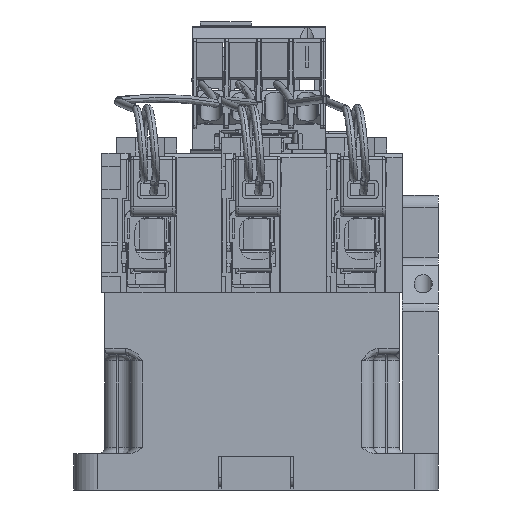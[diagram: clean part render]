
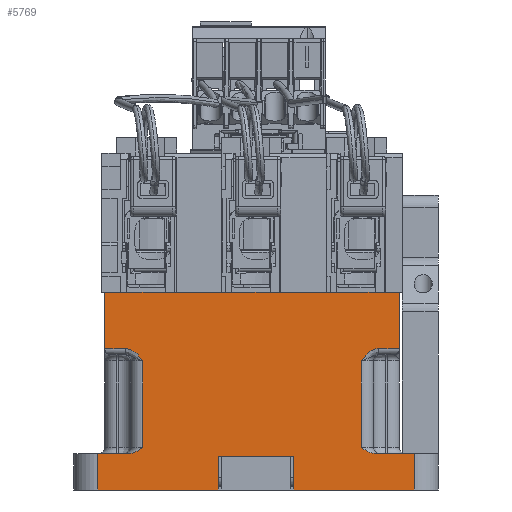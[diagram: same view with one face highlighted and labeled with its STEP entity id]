
A CAD part, front view. The second image highlights one B-rep face of the part: STEP entity #5769.
In plain terms, the highlighted planar face has unit normal (0, -1, 0).
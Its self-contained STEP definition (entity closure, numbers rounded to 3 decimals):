
#539=B_SPLINE_CURVE_WITH_KNOTS('',3,(#148453,#148454,#148455,#148456,#148457,
#148458),.UNSPECIFIED.,.F.,.F.,(4,2,4),(0.,0.5,1.),.UNSPECIFIED.);
#540=B_SPLINE_CURVE_WITH_KNOTS('',3,(#148462,#148463,#148464,#148465,#148466,
#148467),.UNSPECIFIED.,.F.,.F.,(4,2,4),(0.,0.5,1.),.UNSPECIFIED.);
#541=B_SPLINE_CURVE_WITH_KNOTS('',3,(#148484,#148485,#148486,#148487,#148488,
#148489),.UNSPECIFIED.,.F.,.F.,(4,2,4),(0.,0.5,1.),.UNSPECIFIED.);
#542=B_SPLINE_CURVE_WITH_KNOTS('',3,(#148493,#148494,#148495,#148496,#148497,
#148498),.UNSPECIFIED.,.F.,.F.,(4,2,4),(0.,0.5,1.),.UNSPECIFIED.);
#5769=ADVANCED_FACE('',(#15220),#11215,.F.);
#11215=PLANE('',#111714);
#15220=FACE_OUTER_BOUND('',#20529,.T.);
#20529=EDGE_LOOP('',(#26310,#26311,#26312,#26313,#26314,#26315,#26316,#26317,
#26318,#26319,#26320,#26321,#26322,#26323,#26324,#26325,#26326,#26327,#26328,
#26329,#26330,#26331,#26332,#26333,#26334,#26335));
#26310=ORIENTED_EDGE('',*,*,#69950,.T.);
#26311=ORIENTED_EDGE('',*,*,#69951,.T.);
#26312=ORIENTED_EDGE('',*,*,#69952,.T.);
#26313=ORIENTED_EDGE('',*,*,#69953,.T.);
#26314=ORIENTED_EDGE('',*,*,#69954,.F.);
#26315=ORIENTED_EDGE('',*,*,#69955,.T.);
#26316=ORIENTED_EDGE('',*,*,#69956,.T.);
#26317=ORIENTED_EDGE('',*,*,#69957,.F.);
#26318=ORIENTED_EDGE('',*,*,#69958,.F.);
#26319=ORIENTED_EDGE('',*,*,#69959,.T.);
#26320=ORIENTED_EDGE('',*,*,#69960,.T.);
#26321=ORIENTED_EDGE('',*,*,#69961,.T.);
#26322=ORIENTED_EDGE('',*,*,#69910,.F.);
#26323=ORIENTED_EDGE('',*,*,#69962,.T.);
#26324=ORIENTED_EDGE('',*,*,#69963,.T.);
#26325=ORIENTED_EDGE('',*,*,#69964,.T.);
#26326=ORIENTED_EDGE('',*,*,#69965,.T.);
#26327=ORIENTED_EDGE('',*,*,#69966,.T.);
#26328=ORIENTED_EDGE('',*,*,#69967,.T.);
#26329=ORIENTED_EDGE('',*,*,#69869,.T.);
#26330=ORIENTED_EDGE('',*,*,#69968,.T.);
#26331=ORIENTED_EDGE('',*,*,#69882,.T.);
#26332=ORIENTED_EDGE('',*,*,#69969,.T.);
#26333=ORIENTED_EDGE('',*,*,#69873,.T.);
#26334=ORIENTED_EDGE('',*,*,#69970,.T.);
#26335=ORIENTED_EDGE('',*,*,#69929,.F.);
#59128=VERTEX_POINT('',#148242);
#59130=VERTEX_POINT('',#148246);
#59132=VERTEX_POINT('',#148251);
#59134=VERTEX_POINT('',#148255);
#59143=VERTEX_POINT('',#148277);
#59144=VERTEX_POINT('',#148278);
#59171=VERTEX_POINT('',#148334);
#59172=VERTEX_POINT('',#148336);
#59187=VERTEX_POINT('',#148391);
#59188=VERTEX_POINT('',#148393);
#59204=VERTEX_POINT('',#148452);
#59205=VERTEX_POINT('',#148459);
#59206=VERTEX_POINT('',#148461);
#59207=VERTEX_POINT('',#148468);
#59208=VERTEX_POINT('',#148470);
#59209=VERTEX_POINT('',#148472);
#59210=VERTEX_POINT('',#148474);
#59211=VERTEX_POINT('',#148476);
#59212=VERTEX_POINT('',#148478);
#59213=VERTEX_POINT('',#148480);
#59214=VERTEX_POINT('',#148482);
#59215=VERTEX_POINT('',#148490);
#59216=VERTEX_POINT('',#148492);
#59217=VERTEX_POINT('',#148499);
#59218=VERTEX_POINT('',#148501);
#59219=VERTEX_POINT('',#148503);
#69869=EDGE_CURVE('',#59128,#59130,#86341,.T.);
#69873=EDGE_CURVE('',#59132,#59134,#86345,.T.);
#69882=EDGE_CURVE('',#59143,#59144,#86354,.T.);
#69910=EDGE_CURVE('',#59171,#59172,#86371,.T.);
#69929=EDGE_CURVE('',#59187,#59188,#86380,.T.);
#69950=EDGE_CURVE('',#59187,#59204,#86397,.T.);
#69951=EDGE_CURVE('',#59204,#59205,#539,.T.);
#69952=EDGE_CURVE('',#59205,#59206,#86398,.T.);
#69953=EDGE_CURVE('',#59206,#59207,#540,.T.);
#69954=EDGE_CURVE('',#59208,#59207,#86399,.T.);
#69955=EDGE_CURVE('',#59208,#59209,#86400,.T.);
#69956=EDGE_CURVE('',#59209,#59210,#86401,.T.);
#69957=EDGE_CURVE('',#59211,#59210,#86402,.T.);
#69958=EDGE_CURVE('',#59212,#59211,#86403,.T.);
#69959=EDGE_CURVE('',#59212,#59213,#86404,.T.);
#69960=EDGE_CURVE('',#59213,#59214,#86405,.T.);
#69961=EDGE_CURVE('',#59214,#59172,#86406,.T.);
#69962=EDGE_CURVE('',#59171,#59215,#541,.T.);
#69963=EDGE_CURVE('',#59215,#59216,#86407,.T.);
#69964=EDGE_CURVE('',#59216,#59217,#542,.T.);
#69965=EDGE_CURVE('',#59217,#59218,#86408,.T.);
#69966=EDGE_CURVE('',#59218,#59219,#86409,.T.);
#69967=EDGE_CURVE('',#59219,#59128,#86410,.T.);
#69968=EDGE_CURVE('',#59130,#59143,#86411,.T.);
#69969=EDGE_CURVE('',#59144,#59132,#86412,.T.);
#69970=EDGE_CURVE('',#59134,#59188,#86413,.T.);
#86341=LINE('',#148247,#99016);
#86345=LINE('',#148256,#99020);
#86354=LINE('',#148276,#99029);
#86371=LINE('',#148335,#99046);
#86380=LINE('',#148392,#99055);
#86397=LINE('',#148451,#99072);
#86398=LINE('',#148460,#99073);
#86399=LINE('',#148469,#99074);
#86400=LINE('',#148471,#99075);
#86401=LINE('',#148473,#99076);
#86402=LINE('',#148475,#99077);
#86403=LINE('',#148477,#99078);
#86404=LINE('',#148479,#99079);
#86405=LINE('',#148481,#99080);
#86406=LINE('',#148483,#99081);
#86407=LINE('',#148491,#99082);
#86408=LINE('',#148500,#99083);
#86409=LINE('',#148502,#99084);
#86410=LINE('',#148504,#99085);
#86411=LINE('',#148505,#99086);
#86412=LINE('',#148506,#99087);
#86413=LINE('',#148507,#99088);
#99016=VECTOR('',#119667,1.);
#99020=VECTOR('',#119673,1.);
#99029=VECTOR('',#119688,1.);
#99046=VECTOR('',#119731,1.);
#99055=VECTOR('',#119758,1.);
#99072=VECTOR('',#119779,1.);
#99073=VECTOR('',#119780,1.);
#99074=VECTOR('',#119781,1.);
#99075=VECTOR('',#119782,1.);
#99076=VECTOR('',#119783,1.);
#99077=VECTOR('',#119784,1.);
#99078=VECTOR('',#119785,1.);
#99079=VECTOR('',#119786,1.);
#99080=VECTOR('',#119787,1.);
#99081=VECTOR('',#119788,1.);
#99082=VECTOR('',#119789,1.);
#99083=VECTOR('',#119790,1.);
#99084=VECTOR('',#119791,1.);
#99085=VECTOR('',#119792,1.);
#99086=VECTOR('',#119793,1.);
#99087=VECTOR('',#119794,1.);
#99088=VECTOR('',#119795,1.);
#111714=AXIS2_PLACEMENT_3D('',#148508,#119796,#119797);
#119667=DIRECTION('',(-1.,0.,0.));
#119673=DIRECTION('',(-1.,0.,0.));
#119688=DIRECTION('',(-1.,0.,0.));
#119731=DIRECTION('',(1.,0.,0.));
#119758=DIRECTION('',(0.,0.,1.));
#119779=DIRECTION('',(1.,0.,0.));
#119780=DIRECTION('',(0.,0.,-1.));
#119781=DIRECTION('',(1.,0.,0.));
#119782=DIRECTION('',(0.,0.,-1.));
#119783=DIRECTION('',(1.,0.,0.));
#119784=DIRECTION('',(0.,0.,-1.));
#119785=DIRECTION('',(-1.,0.,0.));
#119786=DIRECTION('',(0.,0.,-1.));
#119787=DIRECTION('',(1.,0.,0.));
#119788=DIRECTION('',(0.,0.,1.));
#119789=DIRECTION('',(0.,0.,1.));
#119790=DIRECTION('',(1.,0.,0.));
#119791=DIRECTION('',(0.,0.,1.));
#119792=DIRECTION('',(-1.,0.,0.));
#119793=DIRECTION('',(-1.,0.,0.));
#119794=DIRECTION('',(-1.,0.,0.));
#119795=DIRECTION('',(-1.,0.,0.));
#119796=DIRECTION('',(0.,1.,0.));
#119797=DIRECTION('',(0.,0.,1.));
#148242=CARTESIAN_POINT('',(99.201,0.,65.));
#148246=CARTESIAN_POINT('',(86.451,0.,65.));
#148247=CARTESIAN_POINT('',(0.,0.,65.));
#148251=CARTESIAN_POINT('',(30.201,0.,65.));
#148255=CARTESIAN_POINT('',(17.451,0.,65.));
#148256=CARTESIAN_POINT('',(0.,0.,65.));
#148276=CARTESIAN_POINT('',(0.,0.,65.));
#148277=CARTESIAN_POINT('',(64.701,0.,65.));
#148278=CARTESIAN_POINT('',(51.951,0.,65.));
#148334=CARTESIAN_POINT('',(99.174,0.,12.));
#148335=CARTESIAN_POINT('',(0.,0.,12.));
#148336=CARTESIAN_POINT('',(112.,0.,12.));
#148391=CARTESIAN_POINT('',(10.201,0.,46.5));
#148392=CARTESIAN_POINT('',(10.201,0.,12.));
#148393=CARTESIAN_POINT('',(10.201,0.,65.));
#148451=CARTESIAN_POINT('',(18.229,0.,46.5));
#148452=CARTESIAN_POINT('',(17.045,0.,46.5));
#148453=CARTESIAN_POINT('',(17.045,0.,46.5));
#148454=CARTESIAN_POINT('',(18.262,0.,46.5));
#148455=CARTESIAN_POINT('',(19.428,0.,45.991));
#148456=CARTESIAN_POINT('',(21.294,0.,44.473));
#148457=CARTESIAN_POINT('',(22.008,0.,43.481));
#148458=CARTESIAN_POINT('',(22.701,0.,42.5));
#148459=CARTESIAN_POINT('',(22.701,0.,42.5));
#148460=CARTESIAN_POINT('',(22.701,0.,12.));
#148461=CARTESIAN_POINT('',(22.701,0.,14.));
#148462=CARTESIAN_POINT('',(22.701,0.,14.));
#148463=CARTESIAN_POINT('',(22.023,0.,13.521));
#148464=CARTESIAN_POINT('',(21.346,0.,13.041));
#148465=CARTESIAN_POINT('',(19.878,0.,12.285));
#148466=CARTESIAN_POINT('',(19.072,0.,12.));
#148467=CARTESIAN_POINT('',(18.229,0.,12.));
#148468=CARTESIAN_POINT('',(18.229,0.,12.));
#148469=CARTESIAN_POINT('',(0.,0.,12.));
#148470=CARTESIAN_POINT('',(8.,0.,12.));
#148471=CARTESIAN_POINT('',(8.,0.,12.));
#148472=CARTESIAN_POINT('',(8.,0.,0.));
#148473=CARTESIAN_POINT('',(0.,0.,0.));
#148474=CARTESIAN_POINT('',(47.5,0.,0.));
#148475=CARTESIAN_POINT('',(47.5,0.,12.));
#148476=CARTESIAN_POINT('',(47.5,0.,11.));
#148477=CARTESIAN_POINT('',(60.,0.,11.));
#148478=CARTESIAN_POINT('',(72.5,0.,11.));
#148479=CARTESIAN_POINT('',(72.5,0.,12.));
#148480=CARTESIAN_POINT('',(72.5,0.,0.));
#148481=CARTESIAN_POINT('',(0.,0.,0.));
#148482=CARTESIAN_POINT('',(112.,0.,0.));
#148483=CARTESIAN_POINT('',(112.,0.,12.));
#148484=CARTESIAN_POINT('',(99.174,0.,12.));
#148485=CARTESIAN_POINT('',(98.331,0.,12.));
#148486=CARTESIAN_POINT('',(97.524,0.,12.285));
#148487=CARTESIAN_POINT('',(96.057,0.,13.041));
#148488=CARTESIAN_POINT('',(95.379,0.,13.521));
#148489=CARTESIAN_POINT('',(94.701,0.,14.));
#148490=CARTESIAN_POINT('',(94.701,0.,14.));
#148491=CARTESIAN_POINT('',(94.701,0.,12.));
#148492=CARTESIAN_POINT('',(94.701,0.,42.5));
#148493=CARTESIAN_POINT('',(94.701,0.,42.5));
#148494=CARTESIAN_POINT('',(95.395,0.,43.481));
#148495=CARTESIAN_POINT('',(96.108,0.,44.473));
#148496=CARTESIAN_POINT('',(97.975,0.,45.991));
#148497=CARTESIAN_POINT('',(99.14,0.,46.5));
#148498=CARTESIAN_POINT('',(100.358,0.,46.5));
#148499=CARTESIAN_POINT('',(100.358,0.,46.5));
#148500=CARTESIAN_POINT('',(107.201,0.,46.5));
#148501=CARTESIAN_POINT('',(107.201,0.,46.5));
#148502=CARTESIAN_POINT('',(107.201,0.,41.36));
#148503=CARTESIAN_POINT('',(107.201,0.,65.));
#148504=CARTESIAN_POINT('',(0.,0.,65.));
#148505=CARTESIAN_POINT('',(0.,0.,65.));
#148506=CARTESIAN_POINT('',(0.,0.,65.));
#148507=CARTESIAN_POINT('',(0.,0.,65.));
#148508=CARTESIAN_POINT('',(0.,0.,12.));
